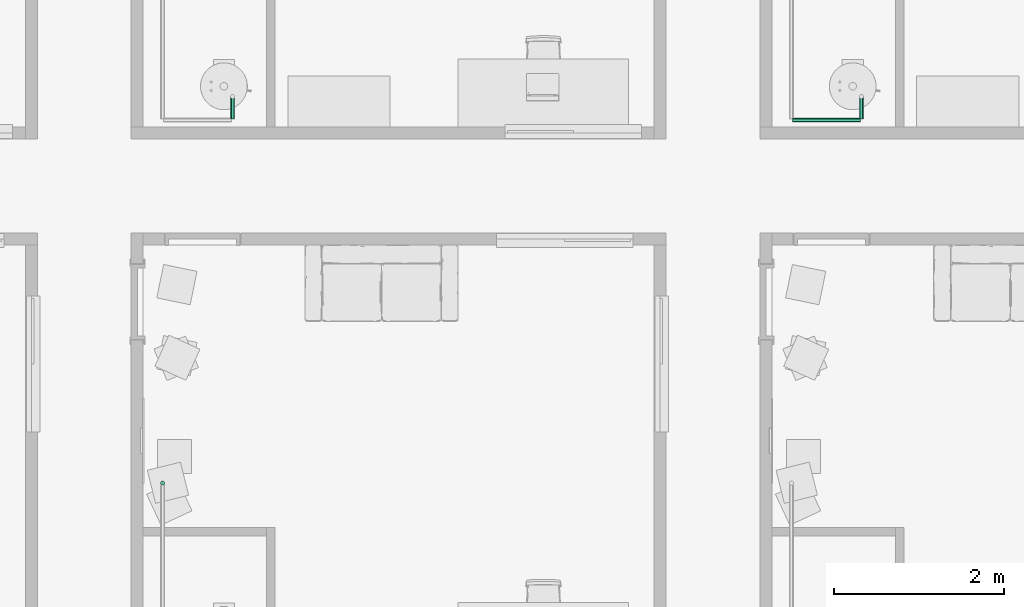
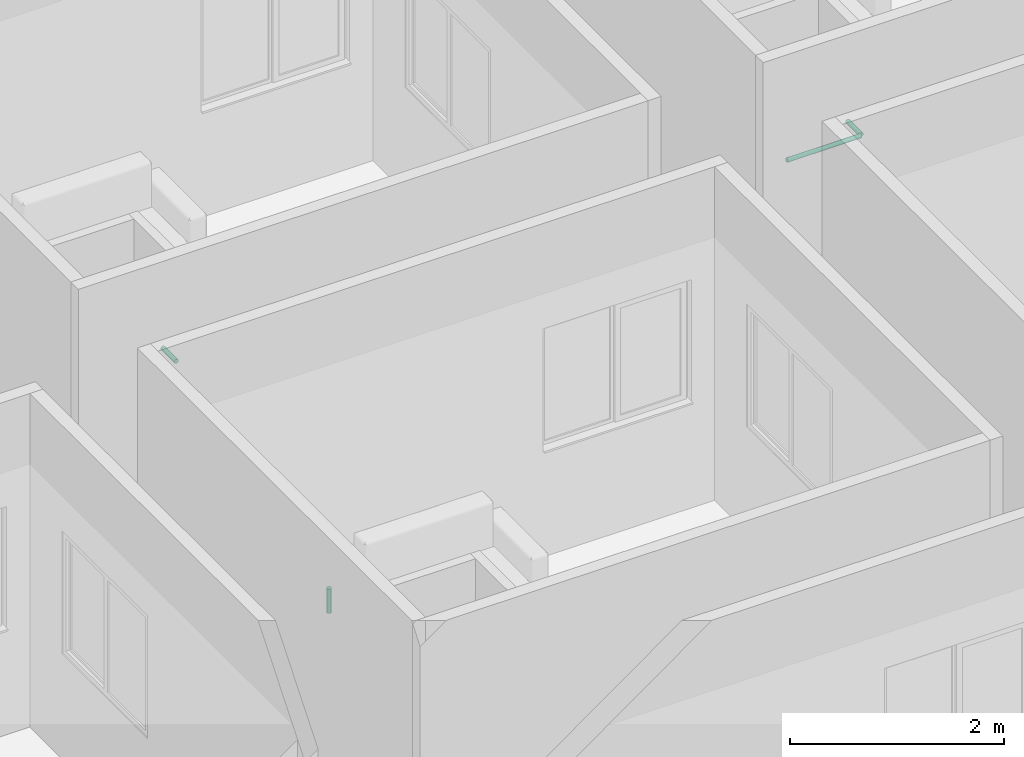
# One storey, part 44 of 71: 4 pipe segments.
"""IFC4 building model written with IfcOpenShell, lengths in centimetres."""

from ifc_helpers import new_model, entity, si_unit, converted_unit, derived_unit, direction, frame, origin, place, context, subcontext, project, spatial, arc, indexed_curve, outline, extrude, type_object, element, save


model = new_model("IFC4")

# Units and contexts
model_context = context("Model", 3, precision=0.001, world=origin(), true_north=direction((6.123233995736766e-17, 1.0)))
body_context = subcontext(model_context, "Body", "Model", "MODEL_VIEW")
ifc_project = project(units=[si_unit("LENGTHUNIT", "METRE", prefix="CENTI"), si_unit("AREAUNIT", "SQUARE_METRE"), si_unit("VOLUMEUNIT", "CUBIC_METRE"), derived_unit("THERMALTRANSMITTANCEUNIT", [(si_unit("MASSUNIT", "GRAM", prefix="KILO"), 1), (si_unit("THERMODYNAMICTEMPERATUREUNIT", "KELVIN"), -1), (si_unit("TIMEUNIT", "SECOND"), -3)]), converted_unit("PLANEANGLEUNIT", "DEGREE", entity("IfcPlaneAngleMeasure", 0.017453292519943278), si_unit("PLANEANGLEUNIT", "RADIAN"), dimensions=[0, 0, 0, 0, 0, 0, 0]), derived_unit("MASSDENSITYUNIT", [(si_unit("MASSUNIT", "GRAM", prefix="KILO"), 1), (si_unit("LENGTHUNIT", "METRE"), -3)]), derived_unit("VAPORPERMEABILITYUNIT", [(si_unit("LENGTHUNIT", "METRE"), -1), (si_unit("TIMEUNIT", "SECOND"), 1)]), derived_unit("USERDEFINED", [(si_unit("MASSUNIT", "GRAM", prefix="KILO"), 1), (si_unit("TIMEUNIT", "SECOND"), -3), (si_unit("LENGTHUNIT", "METRE"), 3), (si_unit("ELECTRICCURRENTUNIT", "AMPERE"), -2)]), derived_unit("SPECIFICHEATCAPACITYUNIT", [(si_unit("THERMODYNAMICTEMPERATUREUNIT", "KELVIN"), -1), (si_unit("LENGTHUNIT", "METRE"), 2), (si_unit("TIMEUNIT", "SECOND"), -2)]), derived_unit("THERMALCONDUCTANCEUNIT", [(si_unit("MASSUNIT", "GRAM", prefix="KILO"), 1), (si_unit("THERMODYNAMICTEMPERATUREUNIT", "KELVIN"), -1), (si_unit("TIMEUNIT", "SECOND"), -3), (si_unit("LENGTHUNIT", "METRE"), 1)]), si_unit("PRESSUREUNIT", "PASCAL"), derived_unit("MODULUSOFELASTICITYUNIT", [(si_unit("MASSUNIT", "GRAM", prefix="KILO"), 1), (si_unit("LENGTHUNIT", "METRE"), -1), (si_unit("TIMEUNIT", "SECOND"), -2)]), derived_unit("THERMALEXPANSIONCOEFFICIENTUNIT", [(si_unit("THERMODYNAMICTEMPERATUREUNIT", "KELVIN"), -1)])], contexts=[model_context])

# Site, building, storey
site_placement = place(None, origin())
site = spatial("IfcSite", under=ifc_project, at=site_placement, Name="Default", CompositionType="ELEMENT")
building_placement = place(site_placement, origin())
building = spatial("IfcBuilding", under=site, at=building_placement, Name="IDS Escape Game Building", CompositionType="ELEMENT")
storey_placement = place(building_placement, frame((0.0, 0.0, 400.0)))
storey = spatial("IfcBuildingStorey", under=building, at=storey_placement, Name="01_First Floor", CompositionType="ELEMENT", Elevation=399.99999999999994)

# Pipe segments
pipe_segment_type = type_object("IfcPipeSegmentType", Name="Pipe Types:Piping Aluminum", PredefinedType="NOTDEFINED")
pipe_segment_1_placement = place(storey_placement, origin())
element("IfcPipeSegment", 1, at=pipe_segment_1_placement, inside=storey, type_object=pipe_segment_type, Name="Pipe Types:Piping Aluminum", ObjectType="Pipe Types:Piping Aluminum", PredefinedType="NOTDEFINED", context=body_context, shape_type="SweptSolid", body=[
    extrude(outline(indexed_curve([(2.412999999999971, 0.0), (1.7062486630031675, 1.7062486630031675), (0.0, 2.412999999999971), (-1.7062486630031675, 1.7062486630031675), (-2.412999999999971, 0.0), (-1.7062486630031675, -1.7062486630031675), (0.0, -2.412999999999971), (1.7062486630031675, -1.7062486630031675)], segments=[arc(1, 2, 3), arc(3, 4, 5), arc(5, 6, 7), arc(7, 8, 1)], self_intersect=False)), frame((1506.0467168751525, 871.2648279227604, 244.09999999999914), z_axis=(0.0, 0.0, 1.0), x_axis=(-1.0, 0.0, 0.0)), (0.0, 0.0, 1.0), 27.900000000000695),
])
pipe_segment_2_placement = place(storey_placement, origin())
element("IfcPipeSegment", 2, at=pipe_segment_2_placement, inside=storey, type_object=pipe_segment_type, Name="Pipe Types:Piping Aluminum", ObjectType="Pipe Types:Piping Aluminum", PredefinedType="NOTDEFINED", context=body_context, shape_type="SweptSolid", body=[
    extrude(outline(indexed_curve([(2.4129999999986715, 0.0), (1.7062486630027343, 1.706248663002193), (1.2994405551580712e-12, 2.412999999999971), (-1.7062486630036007, 1.7062486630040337), (-2.413000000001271, 0.0), (-1.7062486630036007, -1.7062486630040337), (1.2994405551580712e-12, -2.412999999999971), (1.7062486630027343, -1.706248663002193)], segments=[arc(1, 2, 3), arc(3, 4, 5), arc(5, 6, 7), arc(7, 8, 1)], self_intersect=False)), frame((1588.1500000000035, 1298.3648279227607, 242.0), z_axis=(0.0, 1.0, 0.0), x_axis=(-1.0, 0.0, 0.0)), (0.0, 0.0, 1.0), 25.43517207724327),
])
pipe_segment_3_placement = place(storey_placement, origin())
element("IfcPipeSegment", 3, at=pipe_segment_3_placement, inside=storey, type_object=pipe_segment_type, Name="Pipe Types:Piping Aluminum", ObjectType="Pipe Types:Piping Aluminum", PredefinedType="NOTDEFINED", context=body_context, shape_type="SweptSolid", body=[
    extrude(outline(indexed_curve([(2.412999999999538, -2.165734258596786e-13), (1.7062486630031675, 1.7062486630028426), (4.331468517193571e-13, 2.4130000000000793), (-1.706248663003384, 1.7062486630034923), (-2.4130000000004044, -2.165734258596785e-13), (-1.7062486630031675, -1.7062486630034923), (4.3314685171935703e-13, -2.412999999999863), (1.7062486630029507, -1.7062486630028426)], segments=[arc(1, 2, 3), arc(3, 4, 5), arc(5, 6, 7), arc(7, 8, 1)], self_intersect=False)), frame((2245.1467168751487, 1297.2648279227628, 242.0), z_axis=(1.0, 0.0, 0.0), x_axis=(0.0, 1.0, 0.0)), (0.0, 0.0, 1.0), 79.90328312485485),
])
pipe_segment_4_placement = place(storey_placement, origin())
element("IfcPipeSegment", 4, at=pipe_segment_4_placement, inside=storey, type_object=pipe_segment_type, Name="Pipe Types:Piping Aluminum", ObjectType="Pipe Types:Piping Aluminum", PredefinedType="NOTDEFINED", context=body_context, shape_type="SweptSolid", body=[
    extrude(outline(indexed_curve([(2.4129999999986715, 0.0), (1.7062486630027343, 1.7062486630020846), (1.7325874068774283e-12, 2.412999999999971), (-1.7062486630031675, 1.7062486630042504), (-2.413000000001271, 0.0), (-1.7062486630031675, -1.7062486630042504), (1.7325874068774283e-12, -2.412999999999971), (1.7062486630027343, -1.7062486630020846)], segments=[arc(1, 2, 3), arc(3, 4, 5), arc(5, 6, 7), arc(7, 8, 1)], self_intersect=False)), frame((2326.1500000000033, 1298.3648279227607, 242.0), z_axis=(0.0, 1.0, 0.0), x_axis=(-1.0, 0.0, 0.0)), (0.0, 0.0, 1.0), 25.43517207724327),
])

save(model, "model.ifc")
